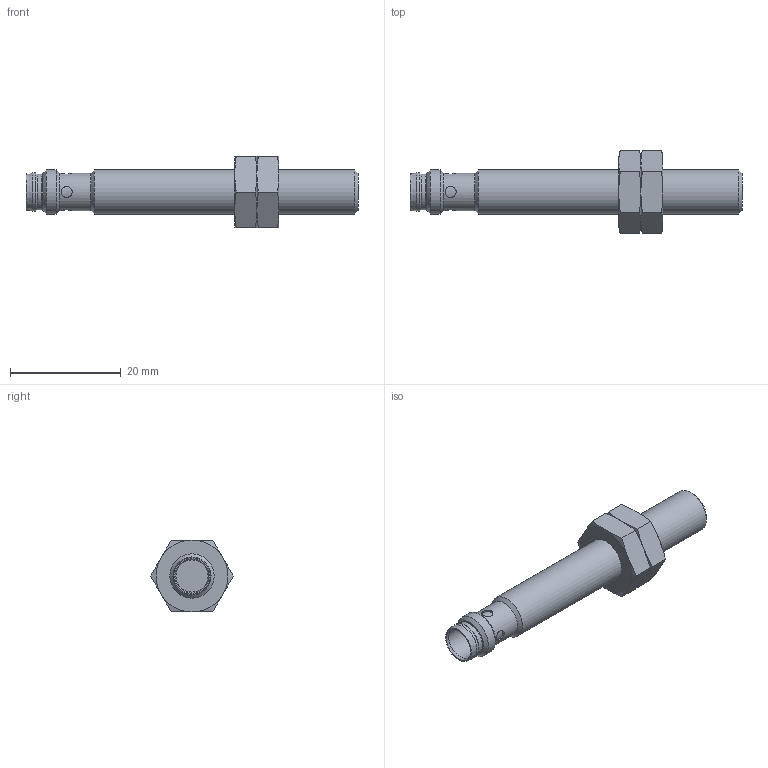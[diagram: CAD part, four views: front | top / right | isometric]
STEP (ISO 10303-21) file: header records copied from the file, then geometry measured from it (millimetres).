
FILE_DESCRIPTION( ( 'STEP AP203' ), ' ' );
FILE_NAME( 'p:/temp/worker_281/936_1964/app_43_02018071011530444124696192d056f_000000_00_00_000000/format_3/IE5390.stp', '2018-07-10T09:53:08', ( '' ), ( '' ), ' ', 'PARTsolutions', ' ' );
FILE_SCHEMA( ( 'CONFIG_CONTROL_DESIGN' ) );
Length unit declared in the file: millimetre
Products named in the file (3): IE5390; _IE5390_part1; _IE5390_part2
Assembly tree (3 placements, depth 2):
  IE5390
    _IE5390_part1
    _IE5390_part2  x2
Bounding box: 60.04 x 15.01 x 13 mm (x, y, z)
Volume: 3586.5 mm3; surface area: 2596.2 mm2
Topology: 3 solids, 3 shells, 73 faces, 147 edges, 85 vertices
Faces by surface type: cone 36, plane 20, cylinder 17
Full cylindrical faces by diameter (mm): 2 x4, 5.8 x1, 6.36 x1, 6.5 x1, 6.773 x1, 6.9 x1, 6.917 x2, 8 x2
Entity records: 1514 total; most frequent: CARTESIAN_POINT 524, DIRECTION 182, ORIENTED_EDGE 144, AXIS2_PLACEMENT_3D 88, EDGE_LOOP 80, EDGE_CURVE 72, FACE_OUTER_BOUND 62, VERTEX_POINT 54
